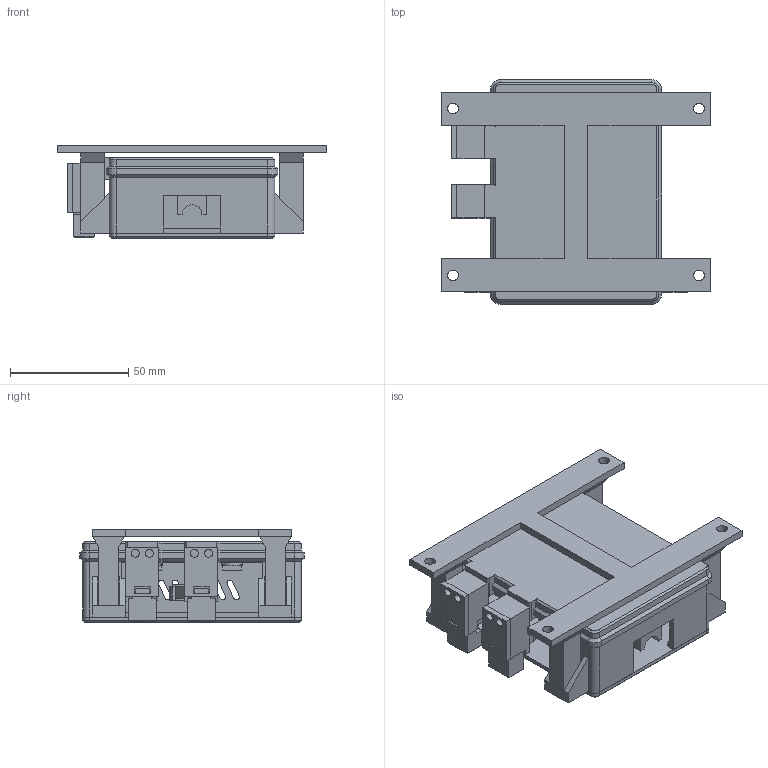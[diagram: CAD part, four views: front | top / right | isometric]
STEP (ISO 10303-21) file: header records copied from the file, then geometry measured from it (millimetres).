
FILE_DESCRIPTION(('Open CASCADE Model'),'2;1');
FILE_NAME('Open CASCADE Shape Model','2026-10-19T19:27:11',('Author'),( 'Open CASCADE'),'Open CASCADE STEP processor 7.9','build123d', 'Unknown');
FILE_SCHEMA(('AUTOMOTIVE_DESIGN { 1 0 10303 214 1 1 1 1 }'));
Length unit declared in the file: millimetre
Products named in the file (16): COMPOUND; lid; body; desk_bracket; pcb_clamp_left_front; pcb_clamp_left_rear; pcb_clamp_right_front; pcb_clamp_right_rear; reset_frame; reset_slider; reset_rear_keeper; reset_moving_magnet_keeper; boot_frame; boot_slider; boot_rear_keeper; boot_moving_magnet_keeper
Assembly tree (15 placements, depth 2):
  COMPOUND
    lid
    body
    desk_bracket
    pcb_clamp_left_front
    pcb_clamp_left_rear
    pcb_clamp_right_front
    pcb_clamp_right_rear
    reset_frame
    reset_slider
    reset_rear_keeper
    reset_moving_magnet_keeper
    boot_frame
    boot_slider
    boot_rear_keeper
    boot_moving_magnet_keeper
Bounding box: 114.1 x 95 x 39.6 mm (x, y, z)
Volume: 93174.9 mm3; surface area: 73930.5 mm2
Topology: 15 solids, 15 shells, 664 faces, 1792 edges, 1198 vertices
Faces by surface type: plane 524, cylinder 123, cone 16, bspline 1
Full cylindrical faces by diameter (mm): 3.4 x22, 4 x18, 4.5 x4
Entity records: 56443 total; most frequent: CARTESIAN_POINT 22511, DIRECTION 5586, LINE 4184, VECTOR 4184, ORIENTED_EDGE 3584, PCURVE 3584, DEFINITIONAL_REPRESENTATION 3584, EDGE_CURVE 1792
